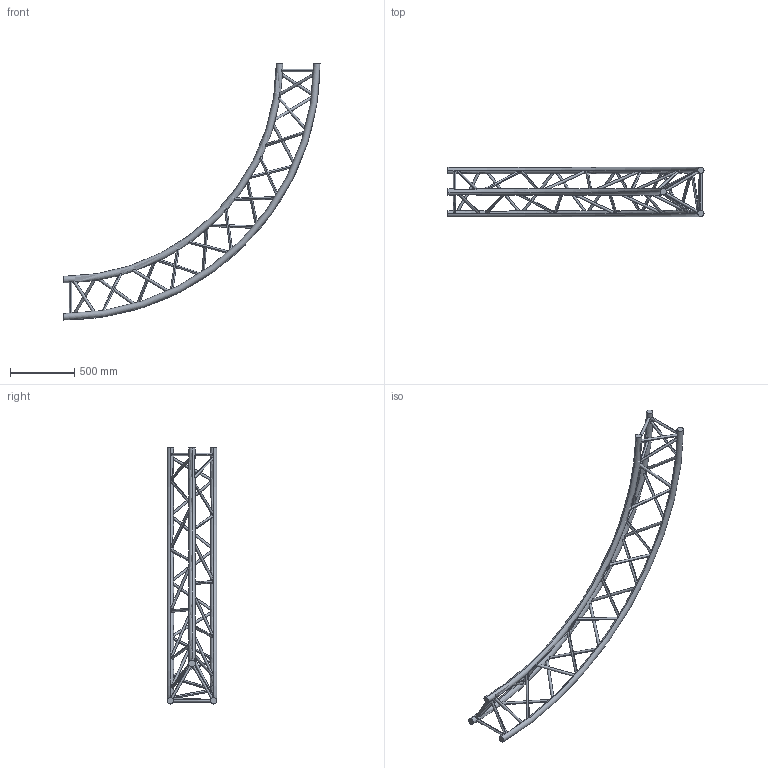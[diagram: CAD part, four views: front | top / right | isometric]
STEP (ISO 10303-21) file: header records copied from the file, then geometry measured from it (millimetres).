
FILE_DESCRIPTION (( 'STEP AP203' ), '1' );
FILE_NAME ('SXC39400PI.STEP', '2009-10-21T11:44:22', ( 'CEDIA' ), ( 'CEDIA INDUSTRIE' ), 'SwSTEP 2.0', 'SolidWorks 2009', '' );
FILE_SCHEMA (( 'CONFIG_CONTROL_DESIGN' ));
Length unit declared in the file: millimetre
Products named in the file (1): SXC39400PI
Bounding box: 2000 x 387 x 2000 mm (x, y, z)
Volume: 21603293.3 mm3; surface area: 2220770.1 mm2
Topology: 1 solids, 1 shells, 90 faces, 252 edges, 168 vertices
Faces by surface type: cylinder 78, torus 6, plane 6
Entity records: 10398 total; most frequent: CARTESIAN_POINT 8142, ORIENTED_EDGE 504, DIRECTION 296, EDGE_CURVE 252, EDGE_LOOP 168, VERTEX_POINT 168, B_SPLINE_CURVE_WITH_KNOTS 156, AXIS2_PLACEMENT_3D 109
